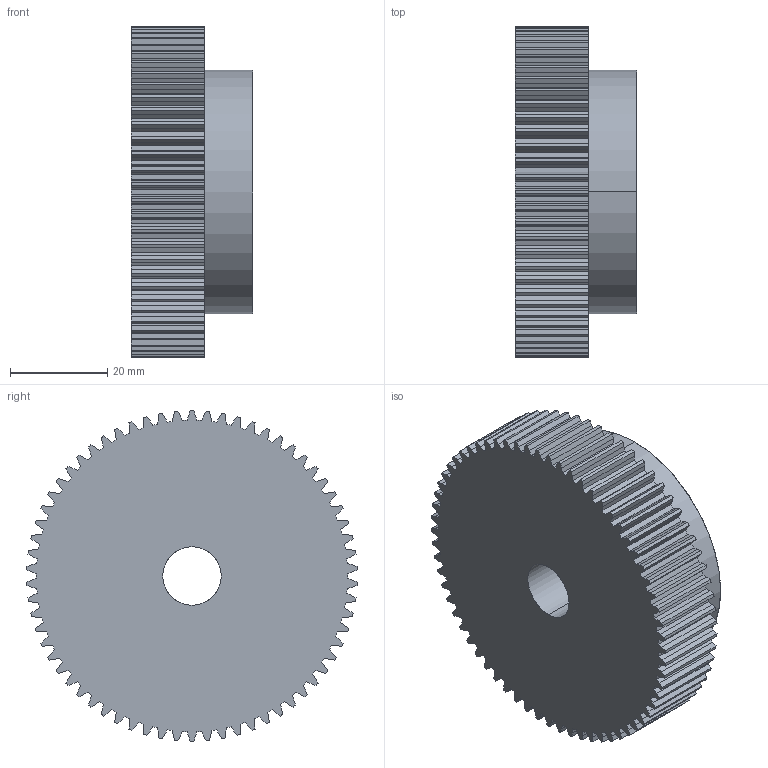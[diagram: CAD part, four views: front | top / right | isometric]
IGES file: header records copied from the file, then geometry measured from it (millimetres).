
Start section: SolidWorks IGES file using analytic representation for surfaces
Global section: file name: C:\Users\Honza\Desktop\Matis (Hotove)\Èelní ozubená kola\PM\MODUL 1\PM 26066.IGS; native system: SolidWorks 2010; preprocessor: SolidWorks 2010; author: Honza; date: 130923.154255; units: millimetre
Bounding box: 25 x 67.95 x 68 mm (x, y, z)
Surface area: 14961.9 mm2 (no closed solid volume)
Topology: 0 solids, 0 shells, 403 faces, 2585 edges, 2585 vertices
Faces by surface type: bspline 267, revolution 136
